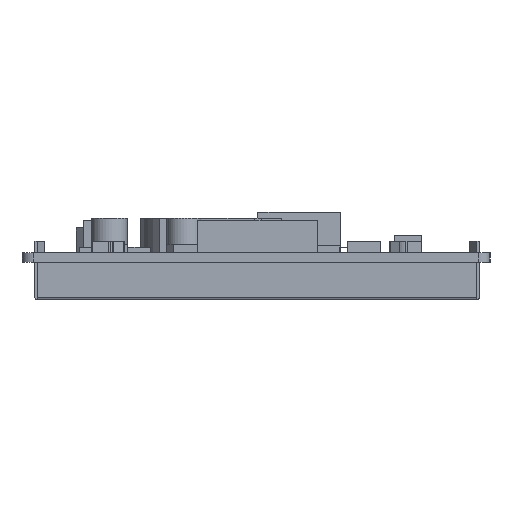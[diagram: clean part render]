
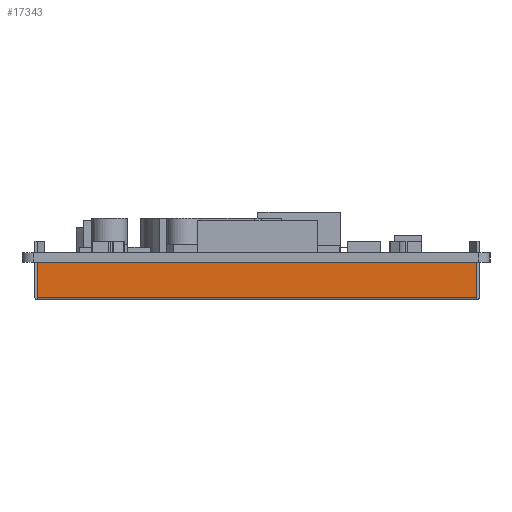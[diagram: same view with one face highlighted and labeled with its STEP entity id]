
A CAD part, left-side view. The second image highlights one B-rep face of the part: STEP entity #17343.
In plain terms, the highlighted planar face has unit normal (-1, 0, 0).
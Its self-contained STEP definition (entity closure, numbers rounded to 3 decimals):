
#17343=ADVANCED_FACE('',(#21269),#19293,.F.);
#19293=PLANE('',#48325);
#21269=FACE_OUTER_BOUND('',#23304,.T.);
#23304=EDGE_LOOP('',(#31136,#31137,#31138,#31139));
#31136=ORIENTED_EDGE('',*,*,#38171,.F.);
#31137=ORIENTED_EDGE('',*,*,#38172,.T.);
#31138=ORIENTED_EDGE('',*,*,#38173,.T.);
#31139=ORIENTED_EDGE('',*,*,#38174,.T.);
#34162=VERTEX_POINT('',#65121);
#34163=VERTEX_POINT('',#65122);
#34164=VERTEX_POINT('',#65124);
#34165=VERTEX_POINT('',#65126);
#38171=EDGE_CURVE('',#34162,#34163,#42161,.T.);
#38172=EDGE_CURVE('',#34162,#34164,#42162,.T.);
#38173=EDGE_CURVE('',#34164,#34165,#42163,.T.);
#38174=EDGE_CURVE('',#34165,#34163,#42164,.T.);
#42161=LINE('',#65120,#46142);
#42162=LINE('',#65123,#46143);
#42163=LINE('',#65125,#46144);
#42164=LINE('',#65127,#46145);
#46142=VECTOR('',#56159,1.);
#46143=VECTOR('',#56160,1.);
#46144=VECTOR('',#56161,1.);
#46145=VECTOR('',#56162,1.);
#48325=AXIS2_PLACEMENT_3D('',#65128,#56163,#56164);
#56159=DIRECTION('',(0.,0.,1.));
#56160=DIRECTION('',(0.,-1.,0.));
#56161=DIRECTION('',(0.,0.,1.));
#56162=DIRECTION('',(0.,1.,0.));
#56163=DIRECTION('',(1.,0.,0.));
#56164=DIRECTION('',(0.,1.,0.));
#65120=CARTESIAN_POINT('',(59.66,54.82,-8.1));
#65121=CARTESIAN_POINT('',(59.66,54.82,-7.7));
#65122=CARTESIAN_POINT('',(59.66,54.82,-1.6));
#65123=CARTESIAN_POINT('',(59.66,-21.2,-7.7));
#65124=CARTESIAN_POINT('',(59.66,-21.2,-7.7));
#65125=CARTESIAN_POINT('',(59.66,-21.2,-8.1));
#65126=CARTESIAN_POINT('',(59.66,-21.2,-1.6));
#65127=CARTESIAN_POINT('',(59.66,-21.2,-1.6));
#65128=CARTESIAN_POINT('',(59.66,-21.2,-8.1));
